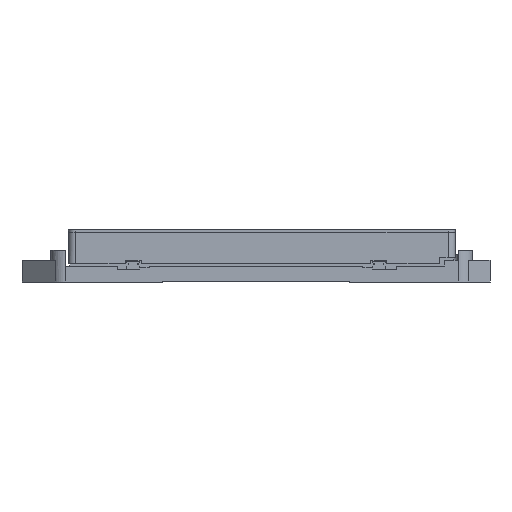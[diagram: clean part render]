
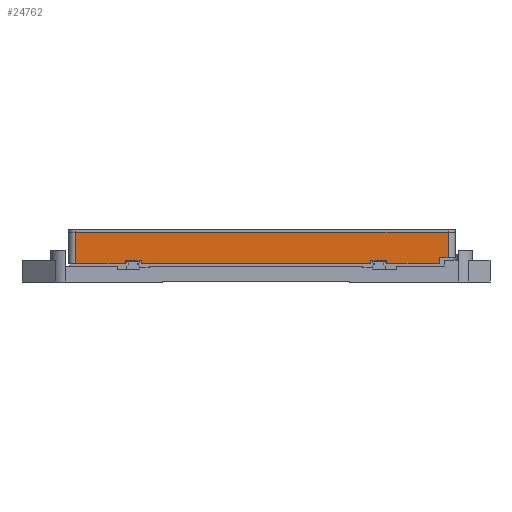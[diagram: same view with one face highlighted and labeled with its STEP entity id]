
A CAD part, front view. The second image highlights one B-rep face of the part: STEP entity #24762.
In plain terms, the highlighted planar face has unit normal (0, -1, 0).
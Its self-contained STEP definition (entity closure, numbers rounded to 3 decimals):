
#895=LINE($,#35035,#3040);
#898=LINE($,#35040,#3043);
#900=LINE($,#35044,#3045);
#902=LINE($,#35049,#3047);
#905=LINE($,#35054,#3050);
#907=LINE($,#35058,#3052);
#918=LINE($,#35090,#3063);
#920=LINE($,#35094,#3065);
#923=LINE($,#35104,#3068);
#1005=LINE($,#35286,#3150);
#1055=LINE($,#35515,#3200);
#1061=LINE($,#35527,#3206);
#1062=LINE($,#35529,#3207);
#1066=LINE($,#35543,#3211);
#3040=VECTOR($,#28793,2.5);
#3043=VECTOR($,#28798,11.);
#3045=VECTOR($,#28802,2.5);
#3047=VECTOR($,#28806,2.5);
#3050=VECTOR($,#28811,11.);
#3052=VECTOR($,#28815,2.5);
#3063=VECTOR($,#28840,36.5);
#3065=VECTOR($,#28844,4.3);
#3068=VECTOR($,#28855,6.);
#3150=VECTOR($,#29039,159.);
#3200=VECTOR($,#29215,258.);
#3206=VECTOR($,#29229,22.);
#3207=VECTOR($,#29232,17.7);
#3211=VECTOR($,#29250,34.5);
#5270=PLANE($,#26440);
#6825=FACE_OUTER_BOUND($,#8270,.T.);
#8270=EDGE_LOOP($,(#17223,#17224,#17225,#17226,#17227,#17228,#17229,#17230,
#17231,#17232,#17233,#17234,#17235,#17236));
#10934=VERTEX_POINT($,#35032);
#10935=VERTEX_POINT($,#35034);
#10936=VERTEX_POINT($,#35038);
#10937=VERTEX_POINT($,#35042);
#10938=VERTEX_POINT($,#35046);
#10939=VERTEX_POINT($,#35048);
#10940=VERTEX_POINT($,#35052);
#10941=VERTEX_POINT($,#35056);
#10955=VERTEX_POINT($,#35088);
#10956=VERTEX_POINT($,#35092);
#10959=VERTEX_POINT($,#35102);
#11075=VERTEX_POINT($,#35512);
#11076=VERTEX_POINT($,#35514);
#11078=VERTEX_POINT($,#35525);
#13278=EDGE_CURVE($,#10935,#10934,#895,.T.);
#13281=EDGE_CURVE($,#10934,#10936,#898,.T.);
#13283=EDGE_CURVE($,#10936,#10937,#900,.T.);
#13285=EDGE_CURVE($,#10939,#10938,#902,.T.);
#13288=EDGE_CURVE($,#10938,#10940,#905,.T.);
#13290=EDGE_CURVE($,#10940,#10941,#907,.T.);
#13306=EDGE_CURVE($,#10955,#10941,#918,.T.);
#13308=EDGE_CURVE($,#10955,#10956,#920,.T.);
#13313=EDGE_CURVE($,#10956,#10959,#923,.T.);
#13403=EDGE_CURVE($,#10939,#10937,#1005,.T.);
#13494=EDGE_CURVE($,#11076,#11075,#1055,.T.);
#13502=EDGE_CURVE($,#11078,#11075,#1061,.T.);
#13503=EDGE_CURVE($,#11076,#10959,#1062,.T.);
#13510=EDGE_CURVE($,#10935,#11078,#1066,.T.);
#17223=ORIENTED_EDGE($,*,*,#13502,.F.);
#17224=ORIENTED_EDGE($,*,*,#13510,.F.);
#17225=ORIENTED_EDGE($,*,*,#13278,.T.);
#17226=ORIENTED_EDGE($,*,*,#13281,.T.);
#17227=ORIENTED_EDGE($,*,*,#13283,.T.);
#17228=ORIENTED_EDGE($,*,*,#13403,.F.);
#17229=ORIENTED_EDGE($,*,*,#13285,.T.);
#17230=ORIENTED_EDGE($,*,*,#13288,.T.);
#17231=ORIENTED_EDGE($,*,*,#13290,.T.);
#17232=ORIENTED_EDGE($,*,*,#13306,.F.);
#17233=ORIENTED_EDGE($,*,*,#13308,.T.);
#17234=ORIENTED_EDGE($,*,*,#13313,.T.);
#17235=ORIENTED_EDGE($,*,*,#13503,.F.);
#17236=ORIENTED_EDGE($,*,*,#13494,.T.);
#24762=ADVANCED_FACE($,(#6825),#5270,.T.);
#26440=AXIS2_PLACEMENT_3D($,#35655,#29368,#29369);
#28793=DIRECTION($,(0.,0.,1.));
#28798=DIRECTION($,(1.,0.,0.));
#28802=DIRECTION($,(0.,0.,-1.));
#28806=DIRECTION($,(0.,0.,1.));
#28811=DIRECTION($,(1.,0.,0.));
#28815=DIRECTION($,(0.,0.,-1.));
#28840=DIRECTION($,(-1.,0.,0.));
#28844=DIRECTION($,(0.,0.,1.));
#28855=DIRECTION($,(1.,0.,0.));
#29039=DIRECTION($,(-1.,0.,0.));
#29215=DIRECTION($,(-1.,0.,0.));
#29229=DIRECTION($,(0.,0.,1.));
#29232=DIRECTION($,(0.,0.,-1.));
#29250=DIRECTION($,(-1.,0.,0.));
#29368=DIRECTION('center_axis',(0.,-1.,0.));
#29369=DIRECTION('ref_axis',(0.,0.,1.));
#35032=CARTESIAN_POINT('',(-391.595,139.98,15.));
#35034=CARTESIAN_POINT('',(-391.595,139.98,12.5));
#35035=CARTESIAN_POINT($,(-391.595,139.98,13.75));
#35038=CARTESIAN_POINT('',(-380.595,139.98,15.));
#35040=CARTESIAN_POINT($,(-271.845,139.98,15.));
#35042=CARTESIAN_POINT('',(-380.595,139.98,12.5));
#35044=CARTESIAN_POINT($,(-380.595,139.98,11.25));
#35046=CARTESIAN_POINT('',(-221.595,139.98,15.));
#35048=CARTESIAN_POINT('',(-221.595,139.98,12.5));
#35049=CARTESIAN_POINT($,(-221.595,139.98,13.75));
#35052=CARTESIAN_POINT('',(-210.595,139.98,15.));
#35054=CARTESIAN_POINT($,(-186.845,139.98,15.));
#35056=CARTESIAN_POINT('',(-210.595,139.98,12.5));
#35058=CARTESIAN_POINT($,(-210.595,139.98,11.25));
#35088=CARTESIAN_POINT('',(-174.095,139.98,12.5));
#35090=CARTESIAN_POINT($,(-163.095,139.98,12.5));
#35092=CARTESIAN_POINT('',(-174.095,139.98,16.8));
#35094=CARTESIAN_POINT($,(-174.095,139.98,14.65));
#35102=CARTESIAN_POINT('',(-168.095,139.98,16.8));
#35104=CARTESIAN_POINT($,(-163.095,139.98,16.8));
#35286=CARTESIAN_POINT($,(-163.095,139.98,12.5));
#35512=CARTESIAN_POINT('',(-426.095,139.98,34.5));
#35514=CARTESIAN_POINT('',(-168.095,139.98,34.5));
#35515=CARTESIAN_POINT($,(-163.095,139.98,34.5));
#35525=CARTESIAN_POINT('',(-426.095,139.98,12.5));
#35527=CARTESIAN_POINT($,(-426.095,139.98,15.586));
#35529=CARTESIAN_POINT($,(-168.095,139.98,15.586));
#35543=CARTESIAN_POINT($,(-163.095,139.98,12.5));
#35655=CARTESIAN_POINT('Origin',(-163.095,139.98,12.5));
